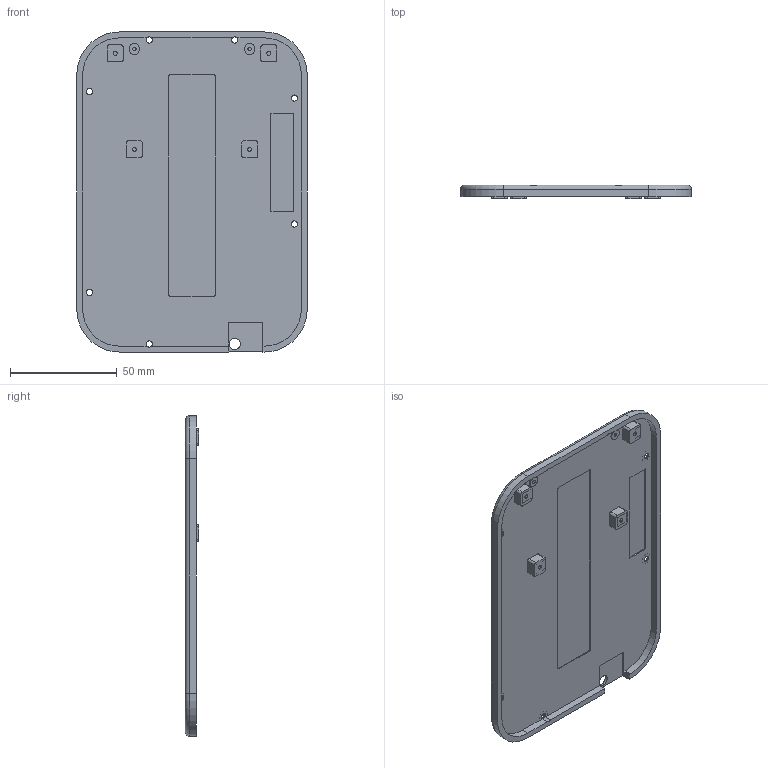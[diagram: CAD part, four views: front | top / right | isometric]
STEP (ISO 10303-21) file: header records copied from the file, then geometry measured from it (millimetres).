
FILE_DESCRIPTION(('Open CASCADE Model'),'2;1');
FILE_NAME('02_REAR_COVER_CONNECTED','2026-09-06T11:49:08',('Author'),( 'Open CASCADE'),'Open CASCADE STEP processor 7.8','build123d', 'Unknown');
FILE_SCHEMA(('AUTOMOTIVE_DESIGN { 1 0 10303 214 1 1 1 1 }'));
Length unit declared in the file: millimetre
Products named in the file (1): 02_REAR_COVER_CONNECTED
Bounding box: 108 x 6.4 x 150 mm (x, y, z)
Volume: 33246.5 mm3; surface area: 36545.7 mm2
Topology: 1 solids, 1 shells, 148 faces, 376 edges, 248 vertices
Faces by surface type: plane 85, cylinder 59, torus 4
Full cylindrical faces by diameter (mm): 1.62 x2, 1.9 x8, 2.9 x7, 5 x2, 5.3 x8
Entity records: 9886 total; most frequent: CARTESIAN_POINT 2290, DIRECTION 1422, LINE 773, VECTOR 773, ORIENTED_EDGE 752, PCURVE 752, DEFINITIONAL_REPRESENTATION 752, EDGE_CURVE 376
